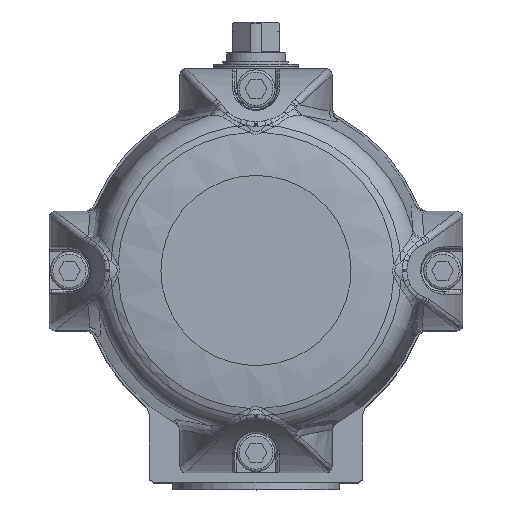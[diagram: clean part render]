
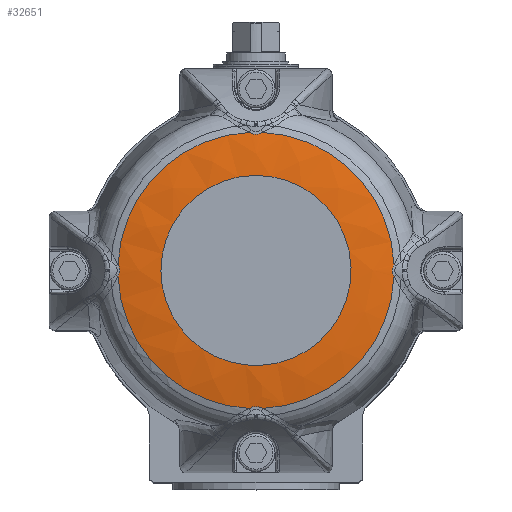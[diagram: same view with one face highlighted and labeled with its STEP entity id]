
A CAD part, top view. The second image highlights one B-rep face of the part: STEP entity #32651.
In plain terms, the highlighted free-form (B-spline) face has degree [2, 2] with [3, 9] control points.
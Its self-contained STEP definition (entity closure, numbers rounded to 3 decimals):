
#28024=CARTESIAN_POINT('',(-58.072,2.624,170.918));
#28025=VERTEX_POINT('',#28024);
#28094=CARTESIAN_POINT('',(-58.072,-2.624,170.918));
#28095=VERTEX_POINT('',#28094);
#28103=CARTESIAN_POINT('',(-58.072,-2.624,170.918));
#28104=CARTESIAN_POINT('',(-57.936,-2.402,170.952));
#28105=CARTESIAN_POINT('',(-57.683,-1.938,171.014));
#28106=CARTESIAN_POINT('',(-57.4,-1.191,171.083));
#28107=CARTESIAN_POINT('',(-57.246,-0.407,171.119));
#28108=CARTESIAN_POINT('',(-57.245,0.677,171.119));
#28109=CARTESIAN_POINT('',(-57.556,1.704,171.046));
#28110=CARTESIAN_POINT('',(-57.936,2.402,170.952));
#28111=CARTESIAN_POINT('',(-58.072,2.624,170.918));
#28112=B_SPLINE_CURVE_WITH_KNOTS('',3,(#28103,#28104,#28105,#28106,#28107,#28108,#28109,#28110,#28111),.UNSPECIFIED.,.F.,.U.,(4,1,1,1,1,1,4),(0.0,0.081,0.163,0.244,0.325,0.488,0.569),.UNSPECIFIED.);
#28113=EDGE_CURVE('',#28095,#28025,#28112,.T.);
#28948=CARTESIAN_POINT('',(-2.847,58.061,170.918));
#28949=VERTEX_POINT('',#28948);
#28950=CARTESIAN_POINT('',(0.,0.,170.918));
#28951=DIRECTION('',(0.0,0.0,-1.0));
#28952=DIRECTION('',(-1.0,0.0,0.0));
#28953=AXIS2_PLACEMENT_3D('',#28950,#28951,#28952);
#28954=CIRCLE('',#28953,58.131);
#28955=EDGE_CURVE('',#28025,#28949,#28954,.T.);
#31698=CARTESIAN_POINT('',(58.072,2.624,170.918));
#31699=VERTEX_POINT('',#31698);
#31768=CARTESIAN_POINT('',(58.072,-2.624,170.918));
#31769=VERTEX_POINT('',#31768);
#31770=CARTESIAN_POINT('',(58.072,2.624,170.918));
#31771=CARTESIAN_POINT('',(57.936,2.402,170.952));
#31772=CARTESIAN_POINT('',(57.683,1.938,171.014));
#31773=CARTESIAN_POINT('',(57.4,1.189,171.083));
#31774=CARTESIAN_POINT('',(57.246,0.407,171.119));
#31775=CARTESIAN_POINT('',(57.246,-0.408,171.119));
#31776=CARTESIAN_POINT('',(57.451,-1.451,171.07));
#31777=CARTESIAN_POINT('',(57.8,-2.181,170.986));
#31778=CARTESIAN_POINT('',(58.072,-2.624,170.918));
#31779=B_SPLINE_CURVE_WITH_KNOTS('',3,(#31770,#31771,#31772,#31773,#31774,#31775,#31776,#31777,#31778),.UNSPECIFIED.,.F.,.U.,(4,1,1,1,1,1,4),(0.0,0.081,0.163,0.244,0.325,0.406,0.569),.UNSPECIFIED.);
#31780=EDGE_CURVE('',#31699,#31769,#31779,.T.);
#32491=CARTESIAN_POINT('',(2.847,-58.061,170.918));
#32492=VERTEX_POINT('',#32491);
#32493=CARTESIAN_POINT('',(0.,0.,170.918));
#32494=DIRECTION('',(0.0,0.0,-1.0));
#32495=DIRECTION('',(-1.0,0.0,0.0));
#32496=AXIS2_PLACEMENT_3D('',#32493,#32494,#32495);
#32497=CIRCLE('',#32496,58.131);
#32498=EDGE_CURVE('',#31769,#32492,#32497,.T.);
#32555=CARTESIAN_POINT('',(0.,-21.868,170.918));
#32556=CARTESIAN_POINT('',(0.,-40.,175.138));
#32557=CARTESIAN_POINT('',(0.,-58.132,170.918));
#32558=CARTESIAN_POINT('',(21.868,-21.868,170.918));
#32559=CARTESIAN_POINT('',(40.,-40.,175.138));
#32560=CARTESIAN_POINT('',(58.132,-58.132,170.918));
#32561=CARTESIAN_POINT('',(21.868,0.,170.918));
#32562=CARTESIAN_POINT('',(40.,0.,175.138));
#32563=CARTESIAN_POINT('',(58.132,0.,170.918));
#32564=CARTESIAN_POINT('',(21.868,21.868,170.918));
#32565=CARTESIAN_POINT('',(40.,40.,175.138));
#32566=CARTESIAN_POINT('',(58.132,58.132,170.918));
#32567=CARTESIAN_POINT('',(0.,21.868,170.918));
#32568=CARTESIAN_POINT('',(0.,40.,175.138));
#32569=CARTESIAN_POINT('',(0.,58.132,170.918));
#32570=CARTESIAN_POINT('',(-21.868,21.868,170.918));
#32571=CARTESIAN_POINT('',(-40.,40.,175.138));
#32572=CARTESIAN_POINT('',(-58.132,58.132,170.918));
#32573=CARTESIAN_POINT('',(-21.868,0.,170.918));
#32574=CARTESIAN_POINT('',(-40.,0.,175.138));
#32575=CARTESIAN_POINT('',(-58.132,0.,170.918));
#32576=CARTESIAN_POINT('',(-21.868,-21.868,170.918));
#32577=CARTESIAN_POINT('',(-40.,-40.,175.138));
#32578=CARTESIAN_POINT('',(-58.132,-58.132,170.918));
#32579=CARTESIAN_POINT('',(0.,-21.868,170.918));
#32580=CARTESIAN_POINT('',(0.,-40.,175.138));
#32581=CARTESIAN_POINT('',(0.,-58.132,170.918));
#32589=(BOUNDED_SURFACE()B_SPLINE_SURFACE(2,2,((#32555,#32558,#32561,#32564,#32567,#32570,#32573,#32576,#32579),(#32556,#32559,#32562,#32565,#32568,#32571,#32574,#32577,#32580),(#32557,#32560,#32563,#32566,#32569,#32572,#32575,#32578,#32581)),.UNSPECIFIED.,.F.,.T.,.U.)B_SPLINE_SURFACE_WITH_KNOTS((3,3),(3,2,2,2,3),(-1.799,-1.342),(0.0,1.571,3.142,4.712,6.283),.UNSPECIFIED.)GEOMETRIC_REPRESENTATION_ITEM()RATIONAL_B_SPLINE_SURFACE(((1.0,0.707,1.0,0.707,1.0,0.707,1.0,0.707,1.0),(0.974,0.689,0.974,0.689,0.974,0.689,0.974,0.689,0.974),(1.0,0.707,1.0,0.707,1.0,0.707,1.0,0.707,1.0)))REPRESENTATION_ITEM('')SURFACE());
#32590=ORIENTED_EDGE('',*,*,#28113,.F.);
#32591=CARTESIAN_POINT('',(-2.847,-58.061,170.918));
#32592=VERTEX_POINT('',#32591);
#32593=CARTESIAN_POINT('',(0.,0.,170.918));
#32594=DIRECTION('',(0.0,0.0,-1.0));
#32595=DIRECTION('',(-1.0,0.0,0.0));
#32596=AXIS2_PLACEMENT_3D('',#32593,#32594,#32595);
#32597=CIRCLE('',#32596,58.131);
#32598=EDGE_CURVE('',#32592,#28095,#32597,.T.);
#32599=ORIENTED_EDGE('',*,*,#32598,.F.);
#32600=CARTESIAN_POINT('',(2.847,-58.061,170.918));
#32601=CARTESIAN_POINT('',(2.603,-57.925,170.953));
#32602=CARTESIAN_POINT('',(2.094,-57.673,171.016));
#32603=CARTESIAN_POINT('',(1.278,-57.395,171.083));
#32604=CARTESIAN_POINT('',(0.434,-57.246,171.119));
#32605=CARTESIAN_POINT('',(-0.437,-57.246,171.119));
#32606=CARTESIAN_POINT('',(-1.286,-57.397,171.083));
#32607=CARTESIAN_POINT('',(-2.094,-57.674,171.015));
#32608=CARTESIAN_POINT('',(-2.603,-57.925,170.953));
#32609=CARTESIAN_POINT('',(-2.847,-58.061,170.918));
#32610=B_SPLINE_CURVE_WITH_KNOTS('',3,(#32600,#32601,#32602,#32603,#32604,#32605,#32606,#32607,#32608,#32609),.UNSPECIFIED.,.F.,.U.,(4,1,1,1,1,1,1,4),(0.0,0.087,0.175,0.262,0.349,0.437,0.524,0.611),.UNSPECIFIED.);
#32611=EDGE_CURVE('',#32492,#32592,#32610,.T.);
#32612=ORIENTED_EDGE('',*,*,#32611,.F.);
#32613=ORIENTED_EDGE('',*,*,#32498,.F.);
#32614=ORIENTED_EDGE('',*,*,#31780,.F.);
#32615=CARTESIAN_POINT('',(2.847,58.061,170.918));
#32616=VERTEX_POINT('',#32615);
#32617=CARTESIAN_POINT('',(0.,0.,170.918));
#32618=DIRECTION('',(0.0,0.0,-1.0));
#32619=DIRECTION('',(-1.0,0.0,0.0));
#32620=AXIS2_PLACEMENT_3D('',#32617,#32618,#32619);
#32621=CIRCLE('',#32620,58.131);
#32622=EDGE_CURVE('',#32616,#31699,#32621,.T.);
#32623=ORIENTED_EDGE('',*,*,#32622,.F.);
#32624=CARTESIAN_POINT('',(-2.847,58.061,170.918));
#32625=CARTESIAN_POINT('',(-2.603,57.925,170.953));
#32626=CARTESIAN_POINT('',(-2.094,57.674,171.015));
#32627=CARTESIAN_POINT('',(-1.286,57.397,171.083));
#32628=CARTESIAN_POINT('',(-0.437,57.246,171.119));
#32629=CARTESIAN_POINT('',(0.434,57.246,171.119));
#32630=CARTESIAN_POINT('',(1.278,57.395,171.083));
#32631=CARTESIAN_POINT('',(2.094,57.673,171.016));
#32632=CARTESIAN_POINT('',(2.603,57.925,170.953));
#32633=CARTESIAN_POINT('',(2.847,58.061,170.918));
#32634=B_SPLINE_CURVE_WITH_KNOTS('',3,(#32624,#32625,#32626,#32627,#32628,#32629,#32630,#32631,#32632,#32633),.UNSPECIFIED.,.F.,.U.,(4,1,1,1,1,1,1,4),(0.0,0.087,0.175,0.262,0.349,0.437,0.524,0.611),.UNSPECIFIED.);
#32635=EDGE_CURVE('',#28949,#32616,#32634,.T.);
#32636=ORIENTED_EDGE('',*,*,#32635,.F.);
#32637=ORIENTED_EDGE('',*,*,#28955,.F.);
#32638=EDGE_LOOP('',(#32590,#32599,#32612,#32613,#32614,#32623,#32636,#32637));
#32639=FACE_OUTER_BOUND('',#32638,.T.);
#32640=CARTESIAN_POINT('',(-40.,0.,173.0));
#32641=VERTEX_POINT('',#32640);
#32642=CARTESIAN_POINT('',(0.,0.,173.0));
#32643=DIRECTION('',(0.0,0.0,-1.0));
#32644=DIRECTION('',(-1.0,0.0,0.0));
#32645=AXIS2_PLACEMENT_3D('',#32642,#32643,#32644);
#32646=CIRCLE('',#32645,40.0);
#32647=EDGE_CURVE('',#32641,#32641,#32646,.T.);
#32648=ORIENTED_EDGE('',*,*,#32647,.T.);
#32649=EDGE_LOOP('',(#32648));
#32650=FACE_BOUND('',#32649,.T.);
#32651=ADVANCED_FACE('',(#32639,#32650),#32589,.T.);
